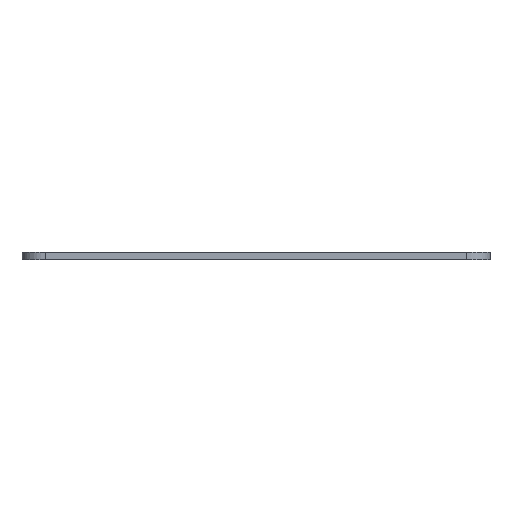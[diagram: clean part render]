
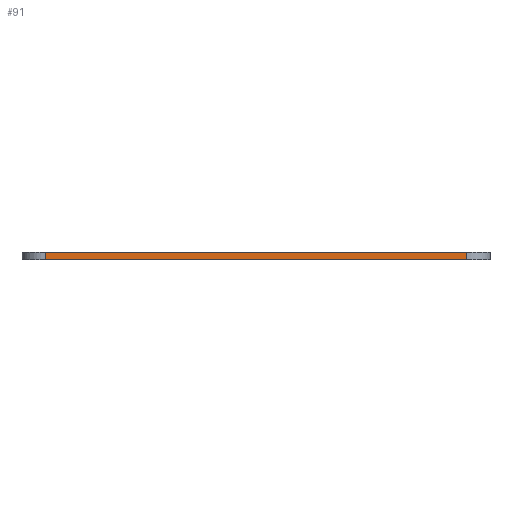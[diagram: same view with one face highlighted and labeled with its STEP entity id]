
A CAD part, left-side view. The second image highlights one B-rep face of the part: STEP entity #91.
In plain terms, the highlighted planar face has unit normal (-1, 0, 0).
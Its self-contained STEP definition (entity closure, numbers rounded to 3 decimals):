
#91 = ADVANCED_FACE( '', ( #134 ), #135, .T. );
#134 = FACE_OUTER_BOUND( '', #188, .T. );
#135 = PLANE( '', #189 );
#188 = EDGE_LOOP( '', ( #322, #323, #324, #325 ) );
#189 = AXIS2_PLACEMENT_3D( '', #326, #327, #328 );
#322 = ORIENTED_EDGE( '', *, *, #480, .T. );
#323 = ORIENTED_EDGE( '', *, *, #481, .F. );
#324 = ORIENTED_EDGE( '', *, *, #482, .T. );
#325 = ORIENTED_EDGE( '', *, *, #483, .T. );
#326 = CARTESIAN_POINT( '', ( -25., -22.5, 0. ) );
#327 = DIRECTION( '', ( -1., 0., 0. ) );
#328 = DIRECTION( '', ( 0., -1., 0. ) );
#480 = EDGE_CURVE( '', #584, #585, #586, .T. );
#481 = EDGE_CURVE( '', #587, #585, #588, .T. );
#482 = EDGE_CURVE( '', #587, #589, #590, .T. );
#483 = EDGE_CURVE( '', #589, #584, #591, .T. );
#584 = VERTEX_POINT( '', #744 );
#585 = VERTEX_POINT( '', #745 );
#586 = LINE( '', #746, #747 );
#587 = VERTEX_POINT( '', #748 );
#588 = LINE( '', #749, #750 );
#589 = VERTEX_POINT( '', #751 );
#590 = LINE( '', #752, #753 );
#591 = LINE( '', #754, #755 );
#744 = CARTESIAN_POINT( '', ( -25., -22.5, 0.8 ) );
#745 = CARTESIAN_POINT( '', ( -25., 22.5, 0.8 ) );
#746 = CARTESIAN_POINT( '', ( -25., 22.5, 0.8 ) );
#747 = VECTOR( '', #864, 1. );
#748 = CARTESIAN_POINT( '', ( -25., 22.5, 0. ) );
#749 = CARTESIAN_POINT( '', ( -25., 22.5, 0. ) );
#750 = VECTOR( '', #865, 1. );
#751 = CARTESIAN_POINT( '', ( -25., -22.5, 0. ) );
#752 = CARTESIAN_POINT( '', ( -25., 22.5, 0. ) );
#753 = VECTOR( '', #866, 1. );
#754 = CARTESIAN_POINT( '', ( -25., -22.5, 0. ) );
#755 = VECTOR( '', #867, 1. );
#864 = DIRECTION( '', ( 0., 1., 0. ) );
#865 = DIRECTION( '', ( 0., 0., 1. ) );
#866 = DIRECTION( '', ( 0., -1., 0. ) );
#867 = DIRECTION( '', ( 0., 0., 1. ) );
